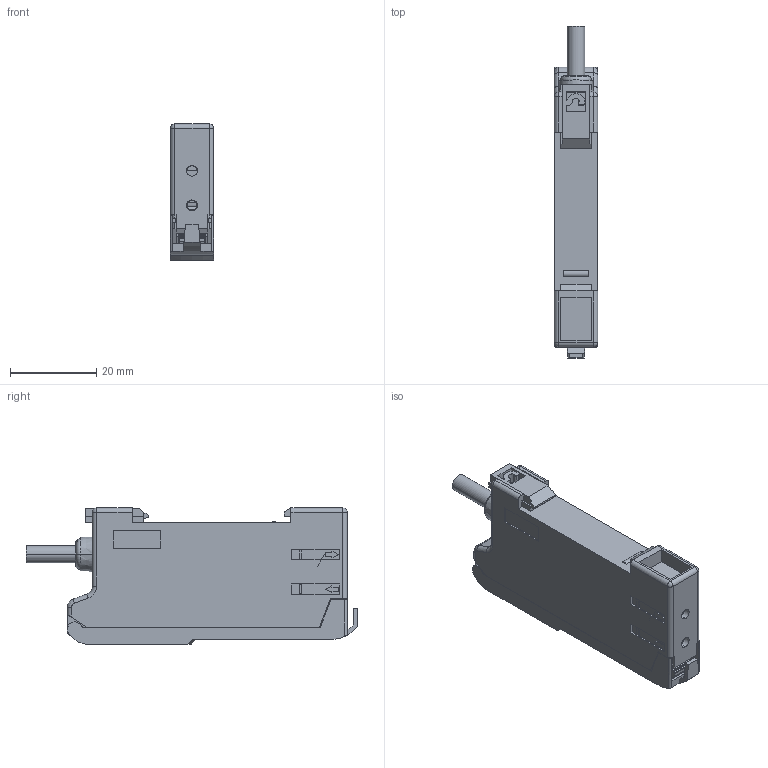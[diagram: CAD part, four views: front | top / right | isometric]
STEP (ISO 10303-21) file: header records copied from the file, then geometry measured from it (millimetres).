
FILE_DESCRIPTION((''),'2;1');
FILE_NAME('FDQ-N11_ASM','2018-07-27T13:42:54',('Administrator'),(''),'CREO PARAMETRIC BY PTC INC, 2016390','CREO PARAMETRIC BY PTC INC, 2016390','');
FILE_SCHEMA(('CONFIG_CONTROL_DESIGN'));
Length unit declared in the file: millimetre
Products named in the file (10): MANIFOLD_SOLID_BREP_4416; AA; MANIFOLD_SOLID_BREP_75; MANIFOLD_SOLID_BREP_77; ASM1_ASM; ADMI7709AW01_3; ADMI7709AW01_1; MIANBAN20180502; GLASSCOVER; FDQ-N11_ASM
Assembly tree (9 placements, depth 3):
  FDQ-N11_ASM
    MANIFOLD_SOLID_BREP_4416
    ASM1_ASM
      AA
      MANIFOLD_SOLID_BREP_75
      MANIFOLD_SOLID_BREP_77
    ADMI7709AW01_3
    ADMI7709AW01_1
    MIANBAN20180502
    GLASSCOVER
Bounding box: 10 x 76.8 x 31.5 mm (x, y, z)
Volume: 8137.3 mm3; surface area: 15553 mm2
Topology: 8 solids, 9 shells, 795 faces, 2155 edges, 1387 vertices
Faces by surface type: plane 538, cylinder 167, torus 35, cone 26, sphere 18, bspline 11
Entity records: 25805 total; most frequent: CARTESIAN_POINT 5458, ORIENTED_EDGE 4270, DIRECTION 4078, EDGE_CURVE 2137, VECTOR 1590, LINE 1590, VERTEX_POINT 1387, AXIS2_PLACEMENT_3D 1244
